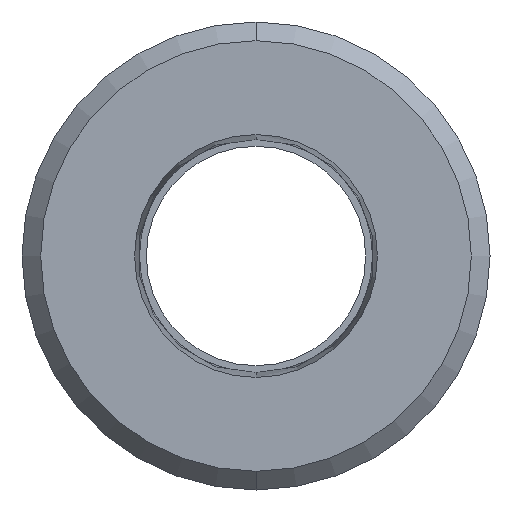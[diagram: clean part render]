
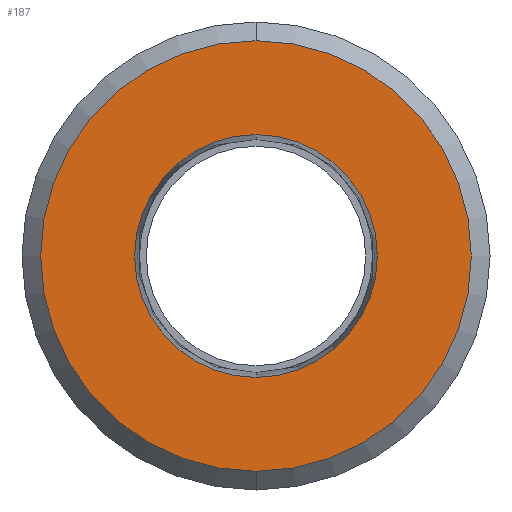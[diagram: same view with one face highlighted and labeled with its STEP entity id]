
A CAD part, front view. The second image highlights one B-rep face of the part: STEP entity #187.
In plain terms, the highlighted planar face has unit normal (0, -1, 0).
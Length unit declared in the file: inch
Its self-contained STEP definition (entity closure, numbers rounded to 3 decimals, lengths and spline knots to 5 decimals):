
#45 = VERTEX_POINT ( 'NONE', #850 ) ;
#76 = CARTESIAN_POINT ( 'NONE',  ( 0., 0., -0.38909 ) ) ;
#79 = CIRCLE ( 'NONE', #778, 0.38909 ) ;
#114 = FACE_BOUND ( 'NONE', #138, .T. ) ;
#126 = DIRECTION ( 'NONE',  ( 0., 0., 1. ) ) ;
#138 = EDGE_LOOP ( 'NONE', ( #524, #608 ) ) ;
#156 = VERTEX_POINT ( 'NONE', #359 ) ;
#162 = PLANE ( 'NONE',  #574 ) ;
#187 = ADVANCED_FACE ( 'NONE', ( #114, #712 ), #162, .F. ) ;
#190 = EDGE_CURVE ( 'NONE', #156, #45, #464, .T. ) ;
#196 = DIRECTION ( 'NONE',  ( 0., -1., 0. ) ) ;
#239 = AXIS2_PLACEMENT_3D ( 'NONE', #607, #196, #677 ) ;
#255 = DIRECTION ( 'NONE',  ( 0., -1., 0. ) ) ;
#289 = CARTESIAN_POINT ( 'NONE',  ( 0., 0., 0. ) ) ;
#308 = CIRCLE ( 'NONE', #239, 0.38909 ) ;
#339 = AXIS2_PLACEMENT_3D ( 'NONE', #289, #450, #483 ) ;
#347 = VERTEX_POINT ( 'NONE', #76 ) ;
#348 = EDGE_CURVE ( 'NONE', #45, #156, #839, .T. ) ;
#359 = CARTESIAN_POINT ( 'NONE',  ( 0., 0., -0.69 ) ) ;
#375 = ORIENTED_EDGE ( 'NONE', *, *, #348, .T. ) ;
#378 = DIRECTION ( 'NONE',  ( 0., 1., 0. ) ) ;
#411 = CARTESIAN_POINT ( 'NONE',  ( 0., 0., 0. ) ) ;
#414 = ORIENTED_EDGE ( 'NONE', *, *, #190, .T. ) ;
#434 = EDGE_CURVE ( 'NONE', #657, #347, #308, .T. ) ;
#450 = DIRECTION ( 'NONE',  ( 0., -1., 0. ) ) ;
#464 = CIRCLE ( 'NONE', #585, 0.69 ) ;
#483 = DIRECTION ( 'NONE',  ( 0., 0., 1. ) ) ;
#486 = DIRECTION ( 'NONE',  ( 0., 0., 1. ) ) ;
#524 = ORIENTED_EDGE ( 'NONE', *, *, #820, .F. ) ;
#574 = AXIS2_PLACEMENT_3D ( 'NONE', #579, #378, #126 ) ;
#579 = CARTESIAN_POINT ( 'NONE',  ( 0., 0., 0. ) ) ;
#585 = AXIS2_PLACEMENT_3D ( 'NONE', #411, #908, #486 ) ;
#607 = CARTESIAN_POINT ( 'NONE',  ( 0., 0., 0. ) ) ;
#608 = ORIENTED_EDGE ( 'NONE', *, *, #434, .F. ) ;
#657 = VERTEX_POINT ( 'NONE', #683 ) ;
#670 = CARTESIAN_POINT ( 'NONE',  ( 0., 0., 0. ) ) ;
#677 = DIRECTION ( 'NONE',  ( 0., 0., -1. ) ) ;
#683 = CARTESIAN_POINT ( 'NONE',  ( 0., 0., 0.38909 ) ) ;
#689 = EDGE_LOOP ( 'NONE', ( #375, #414 ) ) ;
#712 = FACE_OUTER_BOUND ( 'NONE', #689, .T. ) ;
#742 = DIRECTION ( 'NONE',  ( 0., 0., -1. ) ) ;
#778 = AXIS2_PLACEMENT_3D ( 'NONE', #670, #255, #742 ) ;
#820 = EDGE_CURVE ( 'NONE', #347, #657, #79, .T. ) ;
#839 = CIRCLE ( 'NONE', #339, 0.69 ) ;
#850 = CARTESIAN_POINT ( 'NONE',  ( 0., 0., 0.69 ) ) ;
#908 = DIRECTION ( 'NONE',  ( 0., -1., 0. ) ) ;
